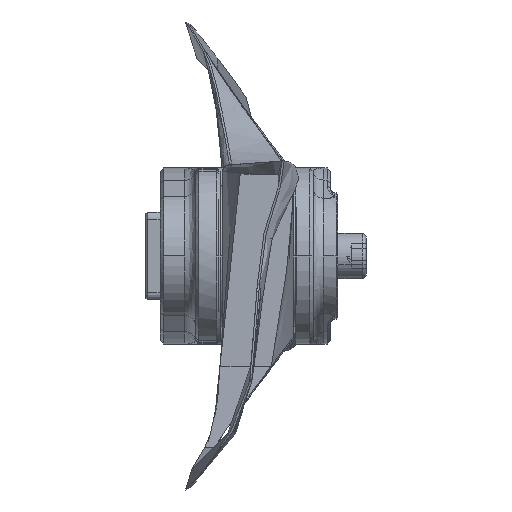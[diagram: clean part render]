
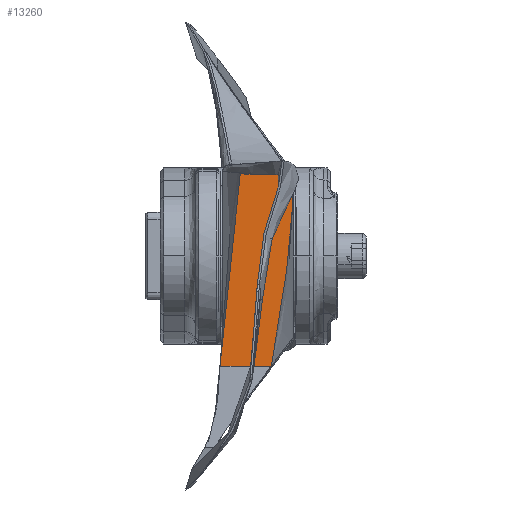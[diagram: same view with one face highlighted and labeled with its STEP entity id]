
A CAD part, left-side view. The second image highlights one B-rep face of the part: STEP entity #13260.
In plain terms, the highlighted planar face has unit normal (-1, 0, 0).
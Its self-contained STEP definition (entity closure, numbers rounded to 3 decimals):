
#938 = VERTEX_POINT ( 'NONE', #26717 ) ;
#967 = VERTEX_POINT ( 'NONE', #24058 ) ;
#1443 = DIRECTION ( 'NONE',  ( 1., 0., 0. ) ) ;
#2054 = CARTESIAN_POINT ( 'NONE',  ( -114.118, -182.911, -14.411 ) ) ;
#2569 = CARTESIAN_POINT ( 'NONE',  ( -114.118, -164.833, -33.208 ) ) ;
#2570 = CARTESIAN_POINT ( 'NONE',  ( -114.118, -183.567, -7.569 ) ) ;
#2741 = CARTESIAN_POINT ( 'NONE',  ( -114.118, -165.515, -26.764 ) ) ;
#3070 = B_SPLINE_CURVE_WITH_KNOTS ( 'NONE', 3,
 ( #10466, #27032, #7434, #21341, #26858, #26510, #5269, #2570, #10987, #2054, #12983, #32221, #23841, #34724, #21167, #11522, #8841, #6153 ),
 .UNSPECIFIED., .F., .F.,
 ( 4, 2, 2, 2, 2, 2, 2, 2, 4 ),
 ( 0., 0.003, 0.007, 0.014, 0.021, 0.027, 0.041, 0.048, 0.055 ),
 .UNSPECIFIED. ) ;
#4473 = FACE_OUTER_BOUND ( 'NONE', #13192, .T. ) ;
#4823 = CARTESIAN_POINT ( 'NONE',  ( -114.118, 115.8, 8.438 ) ) ;
#5269 = CARTESIAN_POINT ( 'NONE',  ( -114.118, -183.9, -3.003 ) ) ;
#6153 = CARTESIAN_POINT ( 'NONE',  ( -114.118, -178.033, -46.097 ) ) ;
#6265 = VERTEX_POINT ( 'NONE', #31428 ) ;
#6692 = DIRECTION ( 'NONE',  ( 0., -1., 0. ) ) ;
#6933 = EDGE_CURVE ( 'NONE', #6265, #967, #3070, .T. ) ;
#6992 = DIRECTION ( 'NONE',  ( 0., 0., 1. ) ) ;
#7180 = B_SPLINE_CURVE_WITH_KNOTS ( 'NONE', 3,
 ( #19727, #8305, #2569, #2741, #24883, #11159, #13497, #16167, #8471, #25058 ),
 .UNSPECIFIED., .F., .F.,
 ( 4, 3, 3, 4 ),
 ( 0., 0.019, 0.037, 0.055 ),
 .UNSPECIFIED. ) ;
#7434 = CARTESIAN_POINT ( 'NONE',  ( -114.118, -184.093, 6.144 ) ) ;
#8305 = CARTESIAN_POINT ( 'NONE',  ( -114.118, -164.151, -39.652 ) ) ;
#8471 = CARTESIAN_POINT ( 'NONE',  ( -114.118, -168.627, 2.572 ) ) ;
#8841 = CARTESIAN_POINT ( 'NONE',  ( -114.118, -178.488, -43.851 ) ) ;
#9381 = LINE ( 'NONE', #20619, #11724 ) ;
#9450 = ORIENTED_EDGE ( 'NONE', *, *, #9556, .T. ) ;
#9556 = EDGE_CURVE ( 'NONE', #938, #967, #30521, .T. ) ;
#10466 = CARTESIAN_POINT ( 'NONE',  ( -114.118, -183.929, 8.438 ) ) ;
#10612 = AXIS2_PLACEMENT_3D ( 'NONE', #4823, #1443, #6992 ) ;
#10987 = CARTESIAN_POINT ( 'NONE',  ( -114.118, -183.366, -9.851 ) ) ;
#11159 = CARTESIAN_POINT ( 'NONE',  ( -114.118, -166.758, -15.029 ) ) ;
#11522 = CARTESIAN_POINT ( 'NONE',  ( -114.118, -178.912, -41.6 ) ) ;
#11724 = VECTOR ( 'NONE', #6692, 1000. ) ;
#12983 = CARTESIAN_POINT ( 'NONE',  ( -114.118, -182.657, -16.687 ) ) ;
#13192 = EDGE_LOOP ( 'NONE', ( #9450, #19537, #28581, #16591 ) ) ;
#13260 = ADVANCED_FACE ( 'NONE', ( #4473 ), #34462, .F. ) ;
#13497 = CARTESIAN_POINT ( 'NONE',  ( -114.118, -167.381, -9.162 ) ) ;
#13905 = EDGE_CURVE ( 'NONE', #938, #34866, #7180, .T. ) ;
#14665 = CARTESIAN_POINT ( 'NONE',  ( -114.118, 115.8, -46.097 ) ) ;
#16014 = EDGE_CURVE ( 'NONE', #34866, #6265, #9381, .T. ) ;
#16167 = CARTESIAN_POINT ( 'NONE',  ( -114.118, -168.004, -3.295 ) ) ;
#16591 = ORIENTED_EDGE ( 'NONE', *, *, #13905, .F. ) ;
#16794 = DIRECTION ( 'NONE',  ( 0., -1., 0. ) ) ;
#17073 = CARTESIAN_POINT ( 'NONE',  ( -114.118, -169.251, 8.438 ) ) ;
#19537 = ORIENTED_EDGE ( 'NONE', *, *, #6933, .F. ) ;
#19638 = VECTOR ( 'NONE', #16794, 1000. ) ;
#19727 = CARTESIAN_POINT ( 'NONE',  ( -114.118, -163.471, -46.097 ) ) ;
#20619 = CARTESIAN_POINT ( 'NONE',  ( -114.118, 115.8, 8.438 ) ) ;
#21167 = CARTESIAN_POINT ( 'NONE',  ( -114.118, -179.721, -37.091 ) ) ;
#21341 = CARTESIAN_POINT ( 'NONE',  ( -114.118, -184.129, 3.855 ) ) ;
#23841 = CARTESIAN_POINT ( 'NONE',  ( -114.118, -181.195, -28.048 ) ) ;
#24058 = CARTESIAN_POINT ( 'NONE',  ( -114.118, -178.033, -46.097 ) ) ;
#24883 = CARTESIAN_POINT ( 'NONE',  ( -114.118, -166.136, -20.897 ) ) ;
#25058 = CARTESIAN_POINT ( 'NONE',  ( -114.118, -169.251, 8.438 ) ) ;
#26510 = CARTESIAN_POINT ( 'NONE',  ( -114.118, -184.035, -0.719 ) ) ;
#26717 = CARTESIAN_POINT ( 'NONE',  ( -114.118, -163.471, -46.097 ) ) ;
#26858 = CARTESIAN_POINT ( 'NONE',  ( -114.118, -184.119, 2.711 ) ) ;
#27032 = CARTESIAN_POINT ( 'NONE',  ( -114.118, -184.048, 7.29 ) ) ;
#28581 = ORIENTED_EDGE ( 'NONE', *, *, #16014, .F. ) ;
#30521 = LINE ( 'NONE', #14665, #19638 ) ;
#31428 = CARTESIAN_POINT ( 'NONE',  ( -114.118, -183.929, 8.438 ) ) ;
#32221 = CARTESIAN_POINT ( 'NONE',  ( -114.118, -181.83, -23.509 ) ) ;
#34462 = PLANE ( 'NONE',  #10612 ) ;
#34724 = CARTESIAN_POINT ( 'NONE',  ( -114.118, -180.106, -34.833 ) ) ;
#34866 = VERTEX_POINT ( 'NONE', #17073 ) ;
